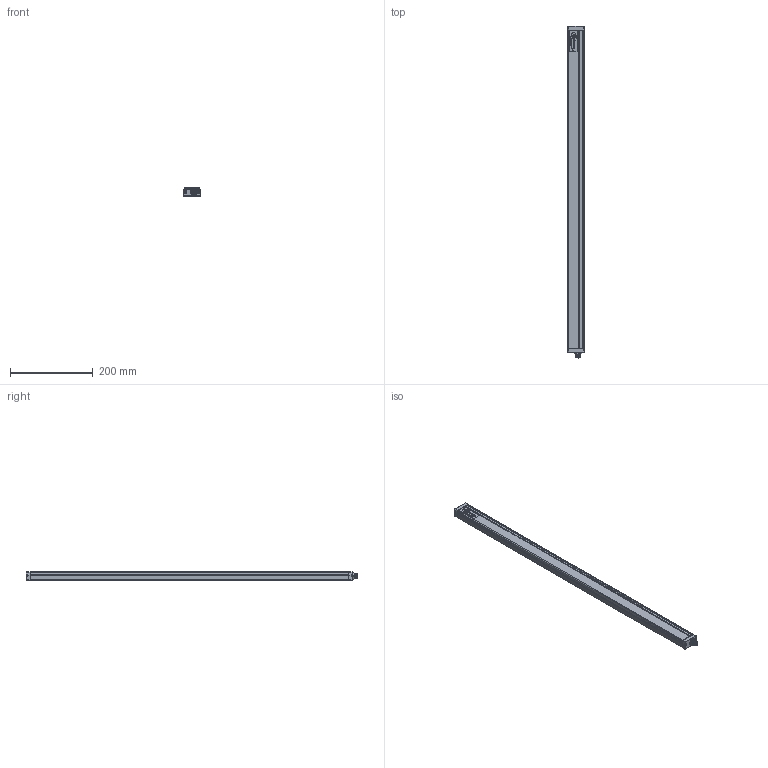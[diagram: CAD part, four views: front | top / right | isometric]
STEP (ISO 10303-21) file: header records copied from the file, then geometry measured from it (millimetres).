
FILE_DESCRIPTION(/* description */ (''),/* implementation_level */ '2;1');
FILE_NAME(/* name */ 'C:\Users\andre\SynologyDrive\Optoscan\Libreria Componenti\00 - Barriere\Polaris sorgente\Barriera Polaris RX\Polaris_770_RX.stp',/* time_stamp */ '2021-06-04T11:49:39+02:00',/* author */ ('andre'),/* organization */ (''),/* preprocessor_version */ 'ST-DEVELOPER v18',/* originating_system */ 'Autodesk Inventor 2020',/* authorisation */ '');
FILE_SCHEMA (('AUTOMOTIVE_DESIGN { 1 0 10303 214 3 1 1 }'));
Length unit declared in the file: millimetre
Products named in the file (1): Polaris_770_RX
Bounding box: 40.5 x 801.3 x 20.75 mm (x, y, z)
Volume: 160932.5 mm3; surface area: 209691.2 mm2
Topology: 1 solids, 1 shells, 700 faces, 1926 edges, 1237 vertices
Faces by surface type: plane 319, cylinder 199, bspline 94, torus 70, sphere 10, cone 8
Full cylindrical faces by diameter (mm): 1 x8, 2.459 x4, 2.5 x4, 3 x4, 3.5 x4, 5.5 x4, 8 x1, 10.5 x2, 11.75 x9, 15.7 x1, 17.5 x1
Entity records: 28472 total; most frequent: CARTESIAN_POINT 10246, ORIENTED_EDGE 3826, DIRECTION 3447, EDGE_CURVE 1913, VERTEX_POINT 1237, AXIS2_PLACEMENT_3D 1211, LINE 1025, VECTOR 1025
